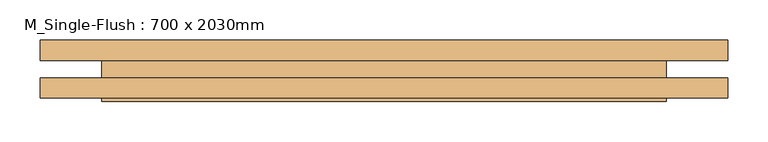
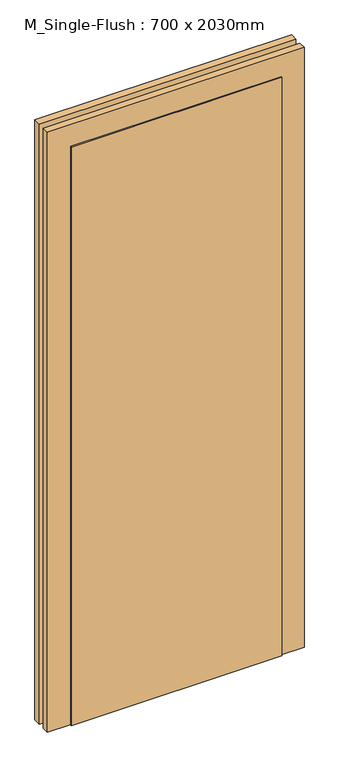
"""IFC4 building model written with IfcOpenShell, lengths in millimetres: door geometry, M_Single-Flush : 700 x 2030mm."""

from ifc_helpers import new_model, si_unit, frame, origin, origin_with_axes, place, context, project, spatial, polyline, outline, extrude, source, transform, mapped, element, save


def m_single_flush_700_x_2030mm_2d3d4a98(model_context):
    return source(origin(), model_context, "Body", "SweptSolid", [
        extrude(outline(polyline([(2106.0, -426.0), (0.0, -426.0), (0.0, -350.0), (2030.0, -350.0), (2030.0, 350.0), (0.0, 350.0), (0.0, 426.0), (2106.0, 426.0), (2106.0, -426.0)])), frame((0.0, 11.0, 0.0), z_axis=(0.0, 1.0, 0.0), x_axis=(0.0, 0.0, 1.0)), (0.0, 0.0, 1.0), 25.0),
        extrude(outline(polyline([(2106.0, 426.0), (2106.0, -426.0), (0.0, -426.0), (0.0, -350.0), (2030.0, -350.0), (2030.0, 350.0), (0.0, 350.0), (0.0, 426.0), (2106.0, 426.0)])), frame((0.0, -36.0, 0.0), z_axis=(0.0, 1.0, 0.0), x_axis=(0.0, 0.0, 1.0)), (0.0, 0.0, 1.0), 25.0),
        extrude(outline(polyline([(350.0, -40.0), (-350.0, -40.0), (-350.0, 11.0), (350.0, 11.0), (350.0, -40.0)])), origin_with_axes(), (0.0, 0.0, 1.0), 2030.0),
    ])


if __name__ == "__main__":
    model = new_model("IFC4")
    model_context = context("Model", 3, world=origin())
    ifc_project = project(units=[si_unit("LENGTHUNIT", "METRE", prefix="MILLI")], contexts=[model_context])
    site = spatial("IfcSite", under=ifc_project)
    building = spatial("IfcBuilding", under=site)
    placement = place(None, origin())
    m_single_flush_700_x_2030mm_shape = m_single_flush_700_x_2030mm_2d3d4a98(model_context)
    element("IfcDoor", 1, ObjectType="M_Single-Flush : 700 x 2030mm", at=placement, inside=building, context=model_context, shape_type="MappedRepresentation", body=[
        mapped(m_single_flush_700_x_2030mm_shape, transform((0.0, 0.0, 0.0), x_axis=(1.0, 0.0, 0.0), y_axis=(0.0, 1.0, 0.0), z_axis=(0.0, 0.0, 1.0))),
    ])
    save(model, "model.ifc")
